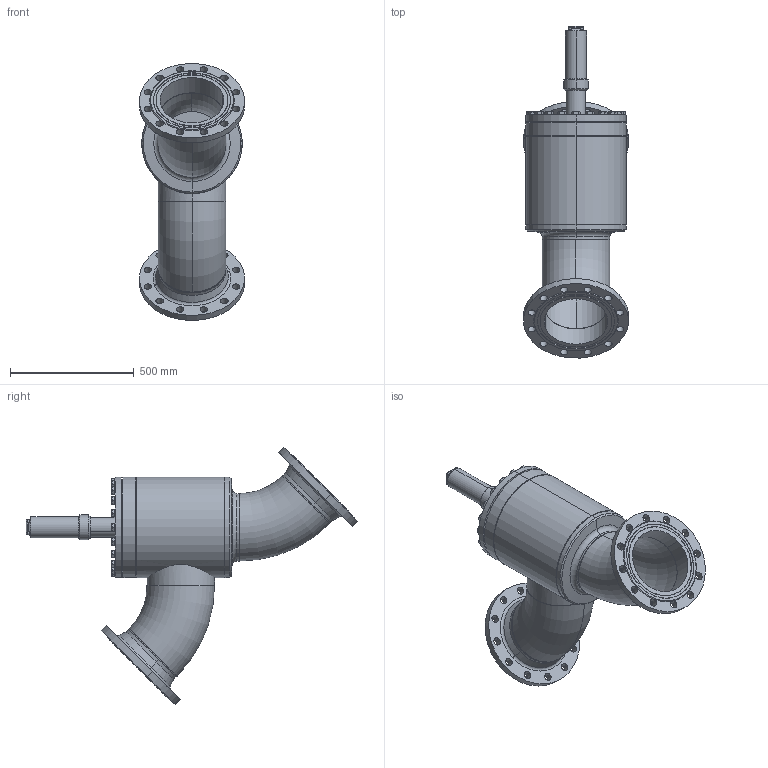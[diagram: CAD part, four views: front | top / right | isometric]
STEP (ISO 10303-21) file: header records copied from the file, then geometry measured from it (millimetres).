
FILE_DESCRIPTION (( 'STEP AP214' ), '1' );
FILE_NAME ('AVR26320C24-DN250_DIN-FL-N_PS25.STEP', '2006-04-28T08:29:23', ( 'Herr Grams' ), ( 'AWP GmbH' ), 'SwSTEP 2.0', 'SolidWorks 2002296', '' );
FILE_SCHEMA (( 'AUTOMOTIVE_DESIGN' ));
Length unit declared in the file: millimetre
Products named in the file (22): AVR26320C24-DN250_DIN-FL-N_PS25; Kappe16402_DN200-350_Standard; Gehäuse-kpl26320-DN250_DIN_PS25_Standard; Gehäuse-kpl26300-DN250_R1_Standard; Kopfstück26300-DN250_Standard; Gehäuse26300-DN250_Standard; Boden26300-DN250_Standard; Rohrstutzen-A26300-DN250_R1_Standard; bead-DN250-1_Standard; bead-DN250-4_Standard; bead-DN250-3_Standard; bead-DN250-2_Standard; Rohrbogen 45°_Rohrbogen-DN250-45°; Flansch-DIN2634-Nut_PS25_DIN-Flansch-DN250_PS25-Nut; bead-DN250-7_Standard; bead-DN250-6_Standard; AVR26300B24_Deck+Schr-DN250_Standard; Deckel-kpl26300-DN250_Standard; Buchse f Deckel26300-DN250_Standard; Scheibe f Deckel26300-DN250_Standard; bead-deck263-250_Standard; Sechskantschraube-DIN933_M20x 60
Assembly tree (42 placements, depth 4):
  AVR26320C24-DN250_DIN-FL-N_PS25
    Kappe16402_DN200-350_Standard
    Gehäuse-kpl26320-DN250_DIN_PS25_Standard
      bead-DN250-6_Standard
      Flansch-DIN2634-Nut_PS25_DIN-Flansch-DN250_PS25-Nut  x2
      Gehäuse-kpl26300-DN250_R1_Standard
        Kopfstück26300-DN250_Standard
        Rohrbogen 45°_Rohrbogen-DN250-45°  x2
        Gehäuse26300-DN250_Standard
        bead-DN250-4_Standard
        Boden26300-DN250_Standard
        bead-DN250-1_Standard
        bead-DN250-2_Standard
        bead-DN250-3_Standard
        Rohrstutzen-A26300-DN250_R1_Standard
      bead-DN250-7_Standard
    AVR26300B24_Deck+Schr-DN250_Standard
      Sechskantschraube-DIN933_M20x 60  x20
      Deckel-kpl26300-DN250_Standard
        Buchse f Deckel26300-DN250_Standard
        bead-deck263-250_Standard
        Scheibe f Deckel26300-DN250_Standard
Bounding box: 423.38 x 1342.91 x 1038 mm (x, y, z)
Volume: 31605006.3 mm3; surface area: 4220896.2 mm2
Topology: 38 solids, 38 shells, 838 faces, 1894 edges, 1146 vertices
Faces by surface type: cone 316, plane 245, cylinder 217, bspline 36, torus 24
Entity records: 24095 total; most frequent: CARTESIAN_POINT 15723, DIRECTION 1622, ORIENTED_EDGE 1480, EDGE_CURVE 740, AXIS2_PLACEMENT_3D 712, VERTEX_POINT 468, EDGE_LOOP 406, CIRCLE 390
